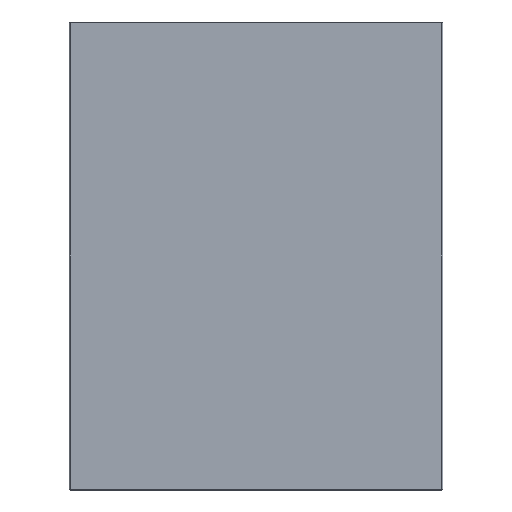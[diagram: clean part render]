
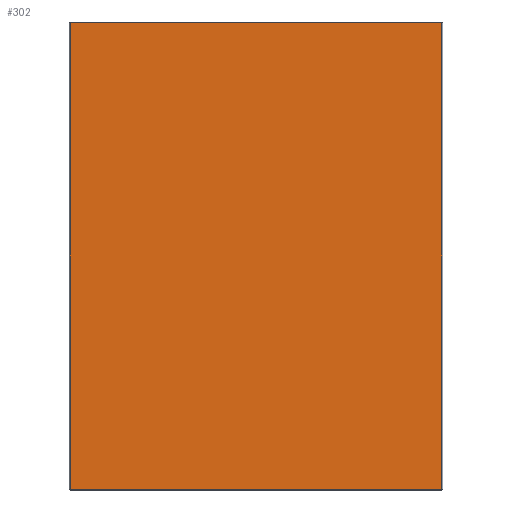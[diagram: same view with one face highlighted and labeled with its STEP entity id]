
A CAD part, front view. The second image highlights one B-rep face of the part: STEP entity #302.
In plain terms, the highlighted planar face has unit normal (0, -1, 0).
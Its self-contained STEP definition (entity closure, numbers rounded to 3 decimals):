
#17 = DIRECTION ( 'NONE',  ( 0., 0., 1. ) ) ;
#33 = DIRECTION ( 'NONE',  ( 0., 1., 0. ) ) ;
#74 = CARTESIAN_POINT ( 'NONE',  ( 197., 0., -247. ) ) ;
#76 = CARTESIAN_POINT ( 'NONE',  ( 0., 0., -247. ) ) ;
#113 = LINE ( 'NONE', #413, #154 ) ;
#120 = DIRECTION ( 'NONE',  ( -1., 0., 0. ) ) ;
#132 = LINE ( 'NONE', #76, #159 ) ;
#138 = VECTOR ( 'NONE', #120, 1000. ) ;
#144 = FACE_OUTER_BOUND ( 'NONE', #565, .T. ) ;
#154 = VECTOR ( 'NONE', #328, 1000. ) ;
#158 = AXIS2_PLACEMENT_3D ( 'NONE', #341, #33, #360 ) ;
#159 = VECTOR ( 'NONE', #520, 1000. ) ;
#162 = LINE ( 'NONE', #267, #138 ) ;
#202 = LINE ( 'NONE', #258, #236 ) ;
#216 = EDGE_CURVE ( 'NONE', #537, #584, #113, .T. ) ;
#229 = EDGE_CURVE ( 'NONE', #581, #537, #162, .T. ) ;
#236 = VECTOR ( 'NONE', #17, 1000. ) ;
#258 = CARTESIAN_POINT ( 'NONE',  ( 197., 0., 0. ) ) ;
#267 = CARTESIAN_POINT ( 'NONE',  ( 0., 0., 247. ) ) ;
#272 = EDGE_CURVE ( 'NONE', #584, #353, #132, .T. ) ;
#302 = ADVANCED_FACE ( 'NONE', ( #144 ), #403, .F. ) ;
#313 = ORIENTED_EDGE ( 'NONE', *, *, #229, .T. ) ;
#328 = DIRECTION ( 'NONE',  ( 0., 0., -1. ) ) ;
#332 = CARTESIAN_POINT ( 'NONE',  ( -197., 0., 247. ) ) ;
#341 = CARTESIAN_POINT ( 'NONE',  ( 0., 0., 0. ) ) ;
#353 = VERTEX_POINT ( 'NONE', #74 ) ;
#356 = ORIENTED_EDGE ( 'NONE', *, *, #216, .T. ) ;
#360 = DIRECTION ( 'NONE',  ( 0., 0., 1. ) ) ;
#390 = CARTESIAN_POINT ( 'NONE',  ( -197., 0., -247. ) ) ;
#403 = PLANE ( 'NONE',  #158 ) ;
#406 = CARTESIAN_POINT ( 'NONE',  ( 197., 0., 247. ) ) ;
#413 = CARTESIAN_POINT ( 'NONE',  ( -197., 0., 0. ) ) ;
#485 = EDGE_CURVE ( 'NONE', #353, #581, #202, .T. ) ;
#520 = DIRECTION ( 'NONE',  ( 1., 0., 0. ) ) ;
#530 = ORIENTED_EDGE ( 'NONE', *, *, #485, .T. ) ;
#537 = VERTEX_POINT ( 'NONE', #332 ) ;
#565 = EDGE_LOOP ( 'NONE', ( #530, #313, #356, #567 ) ) ;
#567 = ORIENTED_EDGE ( 'NONE', *, *, #272, .T. ) ;
#581 = VERTEX_POINT ( 'NONE', #406 ) ;
#584 = VERTEX_POINT ( 'NONE', #390 ) ;
